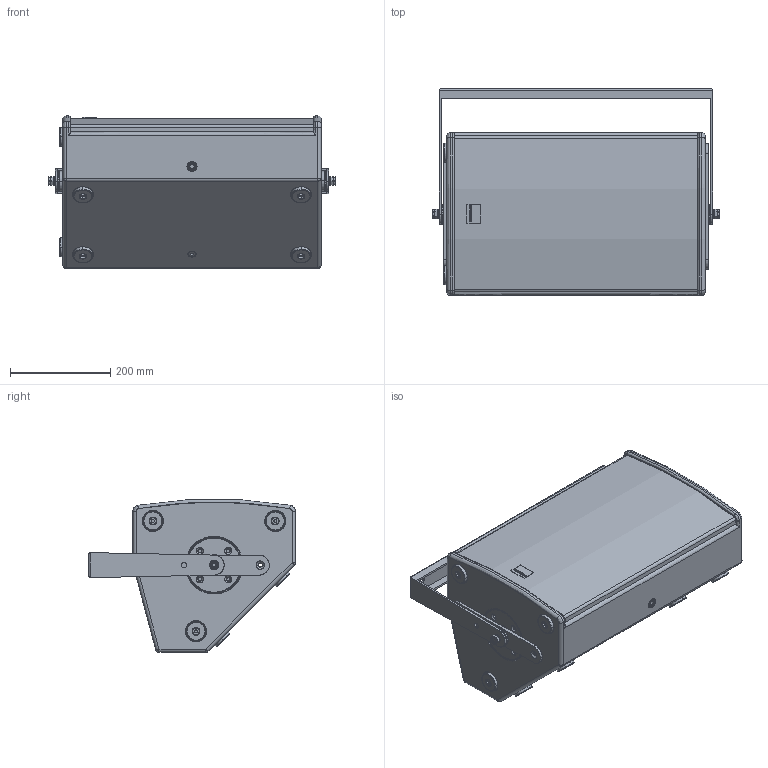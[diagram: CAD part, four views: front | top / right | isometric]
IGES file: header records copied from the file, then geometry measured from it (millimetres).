
Start section: SolidWorks IGES file using analytic representation for surfaces
Global section: file name: C:\Dokumente und Einstellungen\PC_Fabian\Desktop\3d_Dateien_Homepage\A-Serie\A4.IGS; native system: SolidWorks 2009; preprocessor: SolidWorks 2009; author: PC_Fabian; date: 120928.100517; units: millimetre
Bounding box: 572.46 x 412 x 304.58 mm (x, y, z)
Surface area: 1953608.1 mm2 (no closed solid volume)
Topology: 0 solids, 0 shells, 888 faces, 12917 edges, 12907 vertices
Faces by surface type: revolution 469, bspline 419
